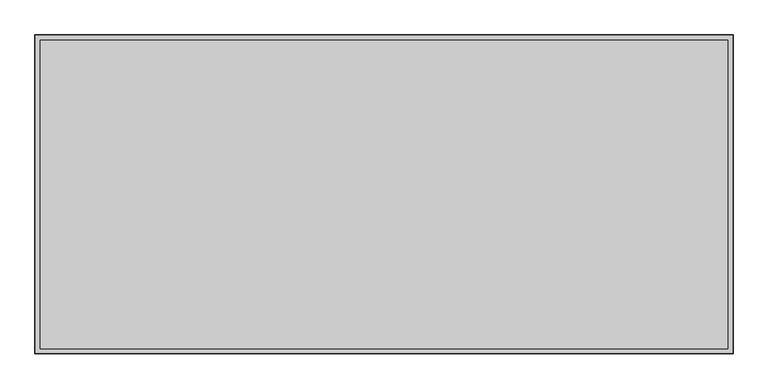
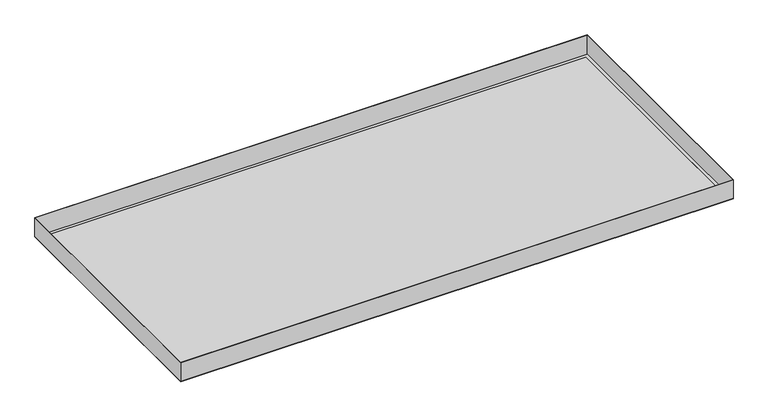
"""IFC4 building model written with IfcOpenShell, lengths in millimetres: proxy geometry, durlum_S5-100_panel : durlum_S5-100_panel_wall_width_cut."""

import ifcopenshell
import ifcopenshell.guid

model = None  # the IFC model being written
_history = None  # IfcOwnerHistory: only IFC2X3 demands one
_inside = {}  # id of a spatial element -> (the spatial element, [elements in it])
_under = {}  # id of a project, library or spatial element -> (it, [spatial elements below it])
_declared = {}  # id of a project -> (the project, [libraries it declares])
_typed = {}  # id of a type object -> (the type object, [elements of that type])
_made_of = {}  # id of a material, layer set ... -> (it, [elements and type objects made of it])


def new_model(schema):
    """Start an empty IFC model of exactly this schema.

    Asked for "IFC4X3", IfcOpenShell would pick the latest addendum, in which some entities
    have other attributes; the version numbers below select the first issue.
    IFC2X3 requires an IfcOwnerHistory on every rooted entity: one is made here for all.
    """
    global model, _history
    if schema == "IFC4X3":
        model = ifcopenshell.file(schema_version=(4, 3, 0, 0))
    else:
        model = ifcopenshell.file(schema=schema)
    _inside.clear()
    _under.clear()
    _declared.clear()
    _typed.clear()
    _made_of.clear()
    _history = None
    if model.schema == "IFC2X3":
        org = make("IfcOrganization", Name="unknown")
        user = make(
            "IfcPersonAndOrganization",
            ThePerson=make("IfcPerson", FamilyName="unknown"),
            TheOrganization=org,
        )
        app = make(
            "IfcApplication",
            ApplicationDeveloper=org,
            Version="unknown",
            ApplicationFullName="unknown",
            ApplicationIdentifier="unknown",
        )
        _history = make(
            "IfcOwnerHistory",
            OwningUser=user,
            OwningApplication=app,
            ChangeAction="ADDED",
            CreationDate=0,
        )
    return model


def make(cls, **values):
    """One entity of the class cls with the attributes given. An attribute that is None is left unset."""
    return model.create_entity(
        cls, **{name: value for name, value in values.items() if value is not None}
    )


def rooted(cls, **values):
    """An entity with a GlobalId (a new one), such as an element, a storey or a relation."""
    return make(cls, GlobalId=ifcopenshell.guid.new(), OwnerHistory=_history, **values)


def si_unit(unit_type, name, prefix=None):
    """IfcSIUnit, for example si_unit("LENGTHUNIT", "METRE", prefix="MILLI")."""
    return make("IfcSIUnit", UnitType=unit_type, Prefix=prefix, Name=name)


def assignment(units):
    """IfcUnitAssignment: the units of a project."""
    return None if units is None else make("IfcUnitAssignment", Units=units)


def point(xyz):
    """IfcCartesianPoint."""
    return None if xyz is None else make("IfcCartesianPoint", Coordinates=xyz)


def direction(xyz):
    """IfcDirection."""
    return None if xyz is None else make("IfcDirection", DirectionRatios=xyz)


def frame(location, z_axis=None, x_axis=None):
    """IfcAxis2Placement3D, a coordinate frame: its origin and axes. An axis left out is left unset."""
    return make(
        "IfcAxis2Placement3D",
        Location=point(location),
        Axis=direction(z_axis),
        RefDirection=direction(x_axis),
    )


def origin():
    """The frame at (0, 0, 0) with its axes left unset."""
    return frame((0.0, 0.0, 0.0))


def origin_with_axes():
    """The frame at (0, 0, 0) with the z axis (0, 0, 1) and the x axis (1, 0, 0) written out."""
    return frame((0.0, 0.0, 0.0), z_axis=(0.0, 0.0, 1.0), x_axis=(1.0, 0.0, 0.0))


def place(relative_to, where):
    """IfcLocalPlacement: puts the frame where relative to a parent placement (None: the world)."""
    return make(
        "IfcLocalPlacement", PlacementRelTo=relative_to, RelativePlacement=where
    )


def context(
    kind, dimensions, precision=None, world=None, true_north=None, identifier=None
):
    """IfcGeometricRepresentationContext, for example the 3D "Model" context."""
    return make(
        "IfcGeometricRepresentationContext",
        ContextIdentifier=identifier,
        ContextType=kind,
        CoordinateSpaceDimension=dimensions,
        Precision=precision,
        WorldCoordinateSystem=world,
        TrueNorth=true_north,
    )


def project(units=None, contexts=None):
    """IfcProject with its units and contexts."""
    return rooted(
        "IfcProject",
        Name="project",
        RepresentationContexts=contexts,
        UnitsInContext=assignment(units),
    )


def spatial(cls, under=None, at=None, **own):
    """A site, building, storey or space (cls), placed at a placement, below another one or the project."""
    s = rooted(cls, ObjectPlacement=at, **own)
    if under is not None:
        _under.setdefault(under.id(), (under, []))[1].append(s)
    return s


def polyline(points):
    """IfcPolyline through the points."""
    return make("IfcPolyline", Points=[point(p) for p in points])


def outline(outer, holes=None, kind="AREA"):
    """IfcArbitraryClosedProfileDef: a profile drawn as a closed curve; with holes, ...WithVoids."""
    if holes is None:
        return make("IfcArbitraryClosedProfileDef", ProfileType=kind, OuterCurve=outer)
    return make(
        "IfcArbitraryProfileDefWithVoids",
        ProfileType=kind,
        OuterCurve=outer,
        InnerCurves=holes,
    )


def extrude(swept, where, along, depth):
    """IfcExtrudedAreaSolid: the profile swept, set in the frame where, extruded along a direction by depth."""
    return make(
        "IfcExtrudedAreaSolid",
        SweptArea=swept,
        Position=where,
        ExtrudedDirection=direction(along),
        Depth=depth,
    )


def shape(context_of_items, identifier, shape_type, items):
    """IfcShapeRepresentation: the items that make up one representation, for example the "Body"."""
    return make(
        "IfcShapeRepresentation",
        ContextOfItems=context_of_items,
        RepresentationIdentifier=identifier,
        RepresentationType=shape_type,
        Items=items,
    )


def source(mapping_origin, context_of_items, identifier, shape_type, items):
    """IfcRepresentationMap: a shape defined once, which mapped items show again and again."""
    return make(
        "IfcRepresentationMap",
        MappingOrigin=mapping_origin,
        MappedRepresentation=shape(context_of_items, identifier, shape_type, items),
    )


def transform(
    local_origin,
    x_axis=None,
    y_axis=None,
    z_axis=None,
    scale=None,
    scale2=None,
    scale3=None,
    uniform=True,
):
    """IfcCartesianTransformationOperator3D, or its non-uniform kind. x_axis, y_axis, z_axis: its Axis1, 2, 3."""
    if uniform:
        return make(
            "IfcCartesianTransformationOperator3D",
            Axis1=direction(x_axis),
            Axis2=direction(y_axis),
            LocalOrigin=point(local_origin),
            Scale=scale,
            Axis3=direction(z_axis),
        )
    return make(
        "IfcCartesianTransformationOperator3DnonUniform",
        Axis1=direction(x_axis),
        Axis2=direction(y_axis),
        LocalOrigin=point(local_origin),
        Scale=scale,
        Axis3=direction(z_axis),
        Scale2=scale2,
        Scale3=scale3,
    )


def mapped(mapping_source, mapping_target):
    """IfcMappedItem: shows the shape of a source again, moved by a transform."""
    return make(
        "IfcMappedItem", MappingSource=mapping_source, MappingTarget=mapping_target
    )


def made_of(thing, what):
    """Note that an element or type object is made of a material, layer set ...; save() writes the relation."""
    if what is not None:
        _made_of.setdefault(what.id(), (what, []))[1].append(thing)
    return thing


def element(
    cls,
    number,
    at=None,
    inside=None,
    cuts=None,
    type_object=None,
    material=None,
    context=None,
    identifier="Body",
    shape_type=None,
    held_by="IfcProductDefinitionShape",
    body=None,
    shapes=None,
    **own,
):
    """One element of the class cls, such as IfcWall. Its Tag is "e" and its number.

    at: its placement. inside: the storey or other place that contains it. cuts: it is an
    opening in that element (IfcRelVoidsElement). A single representation is given by context,
    identifier, shape_type and body (its items); several are given by shapes. held_by: the class
    of the entity that holds the representations. save() writes the other relations.
    """
    e = rooted(cls, Tag="e%d" % number, ObjectPlacement=at, **own)
    if body is not None:
        shapes = [shape(context, identifier, shape_type, body)]
    if shapes is not None:
        e.Representation = make(held_by, Representations=shapes)
    if inside is not None:
        _inside.setdefault(inside.id(), (inside, []))[1].append(e)
    if cuts is not None:
        rooted(
            "IfcRelVoidsElement", RelatingBuildingElement=cuts, RelatedOpeningElement=e
        )
    if type_object is not None:
        _typed.setdefault(type_object.id(), (type_object, []))[1].append(e)
    return made_of(e, material)


def aggregate(whole, parts):
    """IfcRelAggregates: a whole, such as a stair, and the parts it consists of."""
    return rooted("IfcRelAggregates", RelatingObject=whole, RelatedObjects=parts)


def save(model, path):
    """Write the relations noted so far, then the file.

    IfcRelAggregates (storeys below a building ...), IfcRelContainedInSpatialStructure (elements
    in a storey), IfcRelDefinesByType, IfcRelAssociatesMaterial and IfcRelDeclares: one each for
    every whole, place, type object, material and project.
    """
    for whole, parts in _under.values():
        aggregate(whole, parts)
    for where, things in _inside.values():
        rooted(
            "IfcRelContainedInSpatialStructure",
            RelatedElements=things,
            RelatingStructure=where,
        )
    for kind, things in _typed.values():
        rooted("IfcRelDefinesByType", RelatedObjects=things, RelatingType=kind)
    for what, things in _made_of.values():
        rooted("IfcRelAssociatesMaterial", RelatedObjects=things, RelatingMaterial=what)
    for by, libraries in _declared.values():
        rooted("IfcRelDeclares", RelatingContext=by, RelatedDefinitions=libraries)
    model.write(path)


def generic_models_2f172364(model_context):
    return source(origin(), model_context, "Body", "SweptSolid", [
        extrude(outline(polyline([(547.0, 249.75), (547.0, -249.75), (-547.0, -249.75), (-547.0, 249.75), (547.0, 249.75)]), holes=[polyline([(546.4, 249.15), (-546.4, 249.15), (-546.4, -249.15), (546.4, -249.15), (546.4, 249.15)])]), frame((0.0, 0.0, 0.6), z_axis=(0.0, 0.0, 1.0), x_axis=(1.0, 0.0, 0.0)), (0.0, 0.0, 1.0), 39.4),
        extrude(outline(polyline([(539.0, 241.75), (539.0, -241.75), (-539.0, -241.75), (-539.0, 241.75), (539.0, 241.75)])), frame((0.0, 0.0, 0.6), z_axis=(0.0, 0.0, 1.0), x_axis=(1.0, 0.0, 0.0)), (0.0, 0.0, 1.0), 0.6),
        extrude(outline(polyline([(547.0, 249.75), (547.0, -249.75), (-547.0, -249.75), (-547.0, 249.75), (547.0, 249.75)]), holes=[polyline([(539.0, 241.75), (-539.0, 241.75), (-539.0, -241.75), (539.0, -241.75), (539.0, 241.75)])]), origin_with_axes(), (0.0, 0.0, 1.0), 0.6),
        extrude(outline(polyline([(539.0, 241.75), (539.0, -241.75), (-539.0, -241.75), (-539.0, 241.75), (539.0, 241.75)])), origin_with_axes(), (0.0, 0.0, 1.0), 0.6),
    ])


if __name__ == "__main__":
    model = new_model("IFC4")
    model_context = context("Model", 3, world=origin())
    ifc_project = project(units=[si_unit("LENGTHUNIT", "METRE", prefix="MILLI")], contexts=[model_context])
    site = spatial("IfcSite", under=ifc_project)
    building = spatial("IfcBuilding", under=site)
    placement = place(None, origin())
    generic_models_shape = generic_models_2f172364(model_context)
    element("IfcBuildingElementProxy", 1, Name="durlum_S5-100_panel : durlum_S5-100_panel_wall_width_cut", ObjectType="durlum_S5-100_panel : durlum_S5-100_panel_wall_width_cut", at=placement, inside=building, context=model_context, shape_type="MappedRepresentation", body=[
        mapped(generic_models_shape, transform((0.0, 0.0, 0.0), x_axis=(1.0, 0.0, 0.0), y_axis=(0.0, 1.0, 0.0), z_axis=(0.0, 0.0, 1.0))),
    ])
    save(model, "model.ifc")
